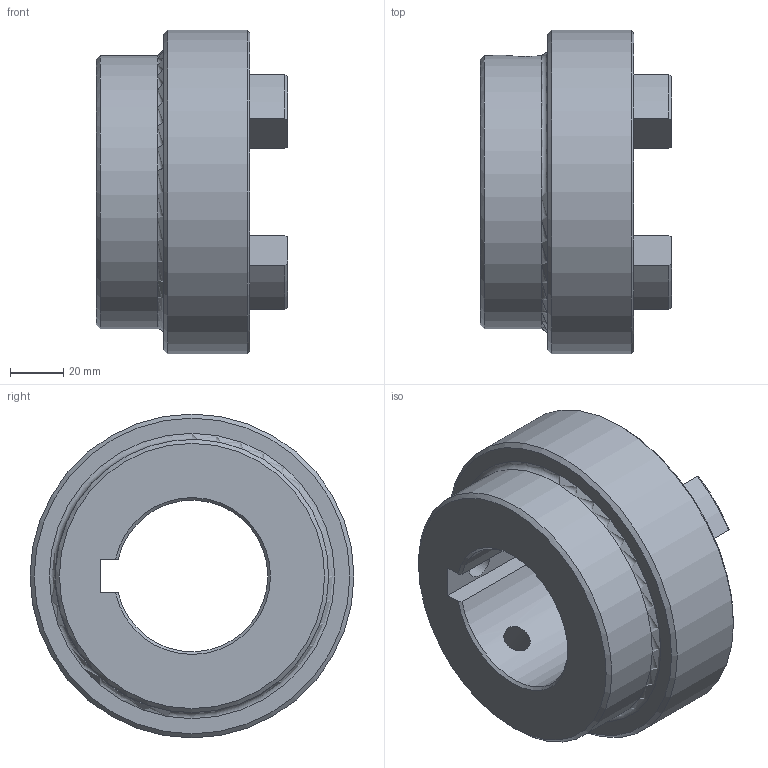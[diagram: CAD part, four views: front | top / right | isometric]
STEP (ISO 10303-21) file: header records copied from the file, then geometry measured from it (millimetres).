
FILE_DESCRIPTION (( 'STEP AP203' ), '1' );
FILE_NAME ('RC5.step', '2024-07-25T13:39:06', ( 'Adlan' ), ( '' ), 'SwSTEP 2.0', 'SolidWorks 2013', '' );
FILE_SCHEMA (( 'CONFIG_CONTROL_DESIGN' ));
Length unit declared in the file: inch
Products named in the file (1): RC5
Bounding box: 72.14 x 122.17 x 122.17 mm (x, y, z)
Volume: 367013.7 mm3; surface area: 59259.5 mm2
Topology: 1 solids, 1 shells, 85 faces, 224 edges, 141 vertices
Faces by surface type: cylinder 33, plane 21, torus 17, cone 14
Full cylindrical faces by diameter (mm): 10.716 x2, 103.124 x1, 122.174 x1
Entity records: 2893 total; most frequent: CARTESIAN_POINT 742, DIRECTION 456, ORIENTED_EDGE 416, EDGE_CURVE 208, AXIS2_PLACEMENT_3D 183, VERTEX_POINT 135, EDGE_LOOP 101, CIRCLE 97
